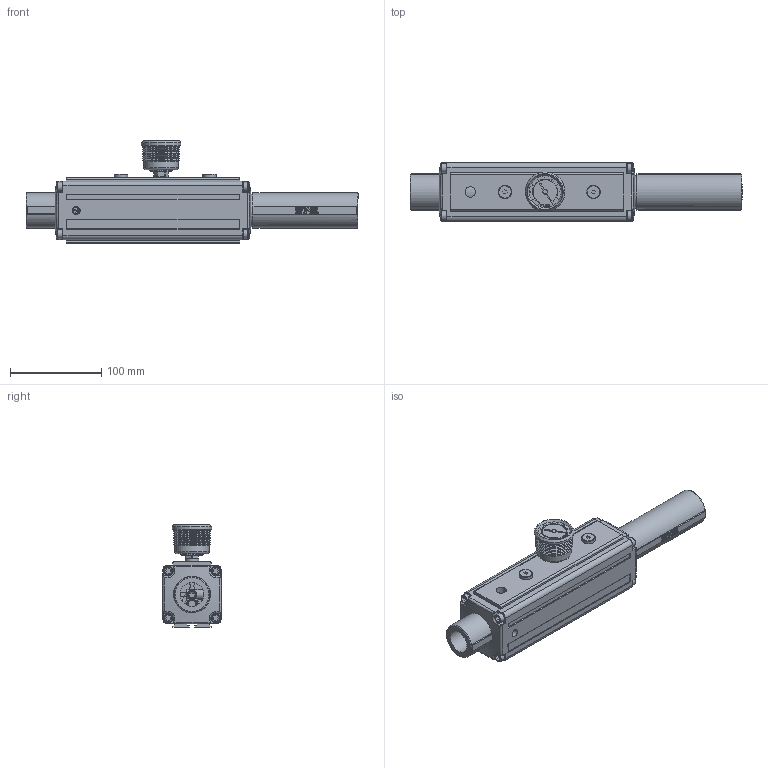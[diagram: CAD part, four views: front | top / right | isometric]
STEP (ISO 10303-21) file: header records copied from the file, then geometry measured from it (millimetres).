
FILE_DESCRIPTION( ( 'Unknown' ), '1' );
FILE_NAME( 'C:/Documents and Settings/茄惫春概平/官帕 拳搁/2010 VMECA 3D CAD/Vacuum Pumps/PM-Pump/A-Type/PM(L)303X( ) A - 01.stp', 'Unknown', ( 'Unknown' ), ( 'Unknown' ), 'PSStep 10.0', 'Unknown', ' ' );
FILE_SCHEMA( ( 'automotive_design' ) );
Length unit declared in the file: millimetre
Products named in the file (4): Assem1; 1_2_0; VTS-01_0_0; VTG-18
Bounding box: 363.6 x 64 x 112.55 mm (x, y, z)
Volume: 1188733.4 mm3; surface area: 437530.5 mm2
Topology: 6 solids, 54 shells, 2552 faces, 6560 edges, 4254 vertices
Faces by surface type: plane 1382, cylinder 844, cone 142, bspline 100, torus 50, extrusion 30, revolution 4
Full cylindrical faces by diameter (mm): 0.518 x2, 1.158 x2, 3.4 x16, 4.134 x16, 4.2 x8, 5 x4, 6 x18, 6.5 x16, 7 x6, 8.566 x8, 9 x2, 9.6 x2, 9.728 x2, 9.8 x16, 10 x2, 10.9 x8, 11 x2, 11.445 x2, 13 x2, 14.6 x4, 15 x4, 18.6 x2, 22 x2, 23 x2, 24.6 x4, 25.8 x2, 30.291 x18, 32.5 x2, 36 x2, 38 x2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
Entity records: 44030 total; most frequent: CARTESIAN_POINT 12898, DIRECTION 6079, ORIENTED_EDGE 5962, EDGE_CURVE 2981, AXIS2_PLACEMENT_3D 2097, VERTEX_POINT 2019, VECTOR 1883, LINE 1868
